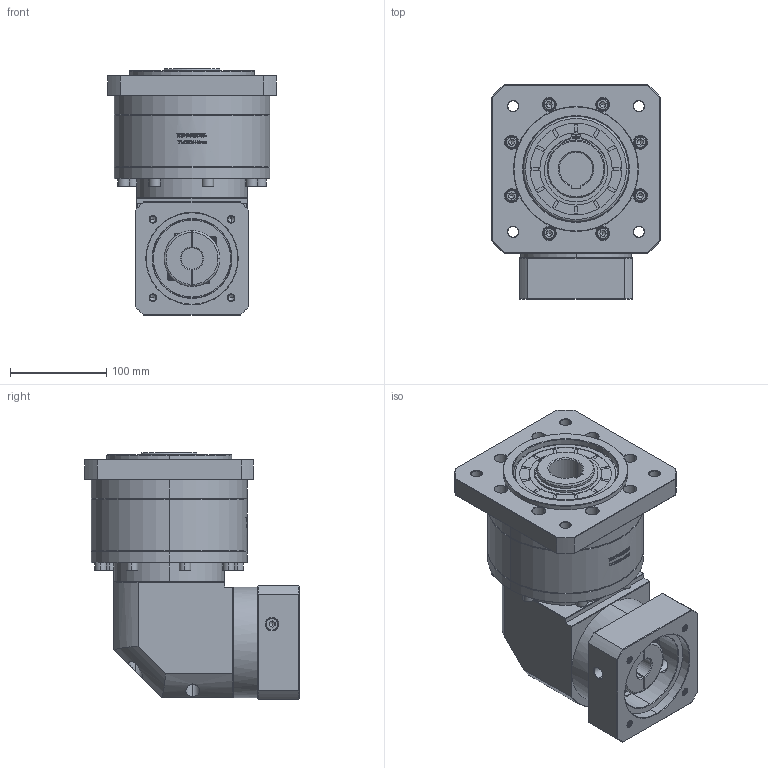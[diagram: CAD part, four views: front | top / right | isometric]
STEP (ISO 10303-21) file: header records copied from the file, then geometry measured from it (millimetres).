
FILE_DESCRIPTION (( 'STEP AP214' ), '1' );
FILE_NAME ('ZFR160A-K35-L2-22-95-115-M8.step', '2023-03-25T01:58:53', ( '' ), ( '' ), 'SwSTEP 2.0', 'SolidWorks 2016', '' );
FILE_SCHEMA (( 'AUTOMOTIVE_DESIGN' ));
Length unit declared in the file: millimetre
Products named in the file (1): ZFR160A-K35-L2-22-95-115-M8
Bounding box: 175 x 222.4 x 256.2 mm (x, y, z)
Volume: 4661667.2 mm3; surface area: 333370.4 mm2
Topology: 6 solids, 6 shells, 2725 faces, 7122 edges, 4569 vertices
Faces by surface type: plane 1366, bspline 491, cylinder 459, cone 365, torus 44
Entity records: 143733 total; most frequent: CARTESIAN_POINT 50896, ORIENTED_EDGE 14140, DIRECTION 11207, EDGE_CURVE 7070, VERTEX_POINT 4569, VECTOR 4443, LINE 4443, AXIS2_PLACEMENT_3D 3382
